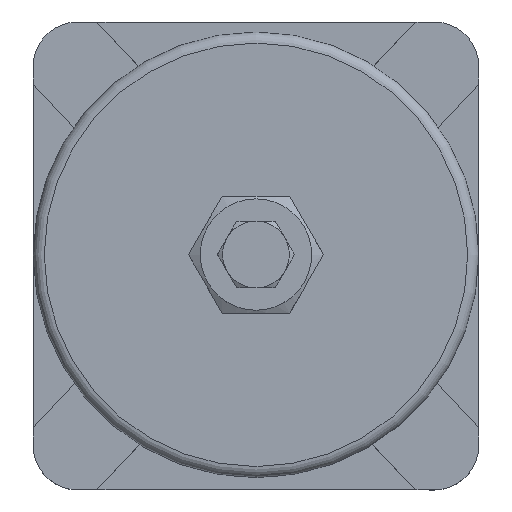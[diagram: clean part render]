
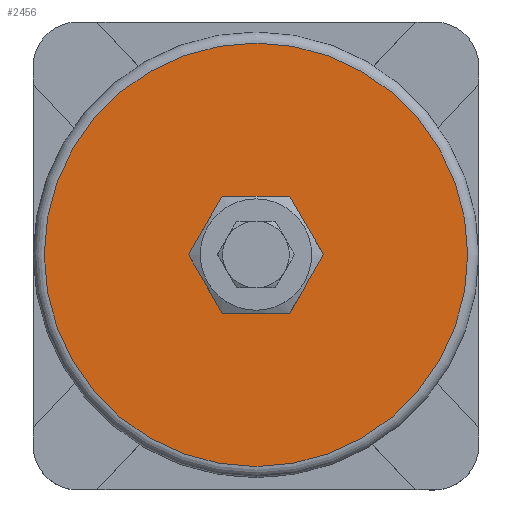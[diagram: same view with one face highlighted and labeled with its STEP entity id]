
A CAD part, top view. The second image highlights one B-rep face of the part: STEP entity #2456.
In plain terms, the highlighted planar face has unit normal (0, 0, 1).
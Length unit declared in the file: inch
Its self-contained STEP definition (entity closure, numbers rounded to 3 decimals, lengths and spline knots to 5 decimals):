
#123=FACE_BOUND('',#449,.T.);
#172=CIRCLE('',#2631,2.3757);
#173=CIRCLE('',#2633,0.38281);
#292=FACE_OUTER_BOUND('',#448,.T.);
#448=EDGE_LOOP('',(#1640));
#449=EDGE_LOOP('',(#1641));
#999=VERTEX_POINT('',#3558);
#1000=VERTEX_POINT('',#3561);
#1248=EDGE_CURVE('',#999,#999,#172,.T.);
#1249=EDGE_CURVE('',#1000,#1000,#173,.T.);
#1640=ORIENTED_EDGE('',*,*,#1248,.T.);
#1641=ORIENTED_EDGE('',*,*,#1249,.F.);
#2208=PLANE('',#2632);
#2456=ADVANCED_FACE('',(#292,#123),#2208,.T.);
#2631=AXIS2_PLACEMENT_3D('',#3559,#2925,#2926);
#2632=AXIS2_PLACEMENT_3D('',#3560,#2927,#2928);
#2633=AXIS2_PLACEMENT_3D('',#3562,#2929,#2930);
#2925=DIRECTION('center_axis',(0.,0.,
1.));
#2926=DIRECTION('ref_axis',(1.,0.,0.));
#2927=DIRECTION('center_axis',(0.,0.,
1.));
#2928=DIRECTION('ref_axis',(1.,0.,0.));
#2929=DIRECTION('center_axis',(0.,0.,
1.));
#2930=DIRECTION('ref_axis',(1.,0.,0.));
#3558=CARTESIAN_POINT('',(2.3757,0.,7.9375));
#3559=CARTESIAN_POINT('Origin',(0.,0.,
7.9375));
#3560=CARTESIAN_POINT('Origin',(1.37925,0.,
7.9375));
#3561=CARTESIAN_POINT('',(0.38281,0.,7.9375));
#3562=CARTESIAN_POINT('Origin',(0.,0.,
7.9375));
